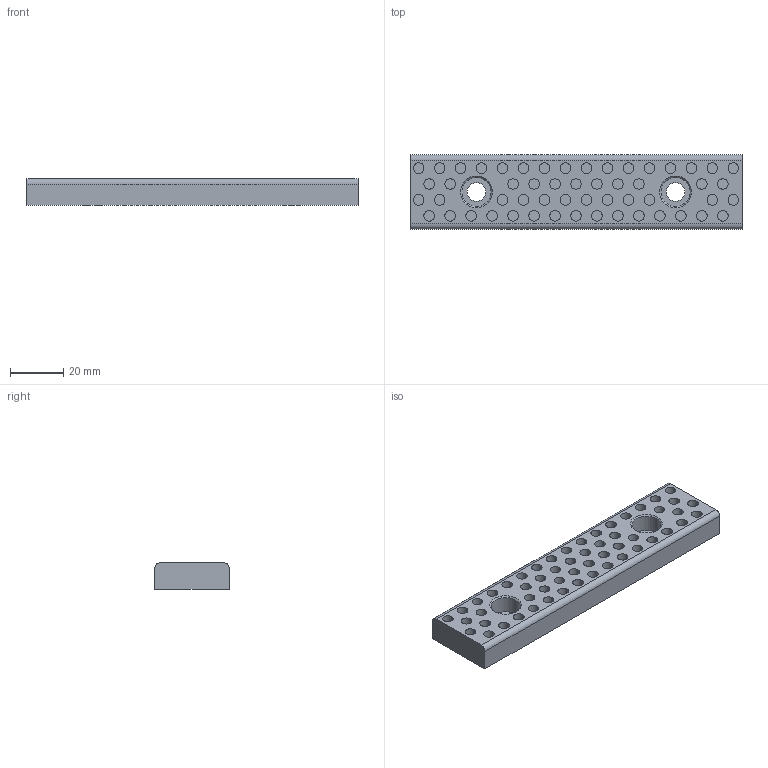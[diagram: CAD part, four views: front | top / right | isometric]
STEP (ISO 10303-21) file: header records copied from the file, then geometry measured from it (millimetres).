
FILE_DESCRIPTION (( 'STEP AP214' ), '1' );
FILE_NAME ('SW220-01-28X125.STEP', '2020-10-14T07:05:10', ( 'August' ), ( '' ), 'SwSTEP 2.0', 'SolidWorks 2018', '' );
FILE_SCHEMA (( 'AUTOMOTIVE_DESIGN' ));
Length unit declared in the file: millimetre
Products named in the file (1): SW220-01-28X125
Bounding box: 125 x 28 x 10 mm (x, y, z)
Volume: 28600.8 mm3; surface area: 14898.6 mm2
Topology: 1 solids, 1 shells, 184 faces, 374 edges, 248 vertices
Faces by surface type: cylinder 118, plane 62, cone 4
Entity records: 5230 total; most frequent: DIRECTION 984, CARTESIAN_POINT 807, ORIENTED_EDGE 748, AXIS2_PLACEMENT_3D 425, EDGE_CURVE 374, VERTEX_POINT 248, EDGE_LOOP 244, CIRCLE 240
